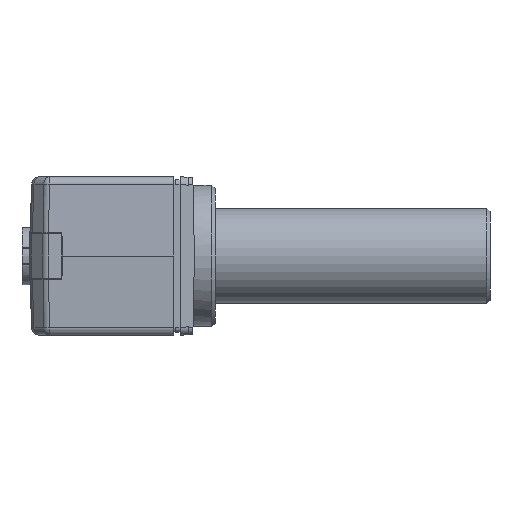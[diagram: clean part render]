
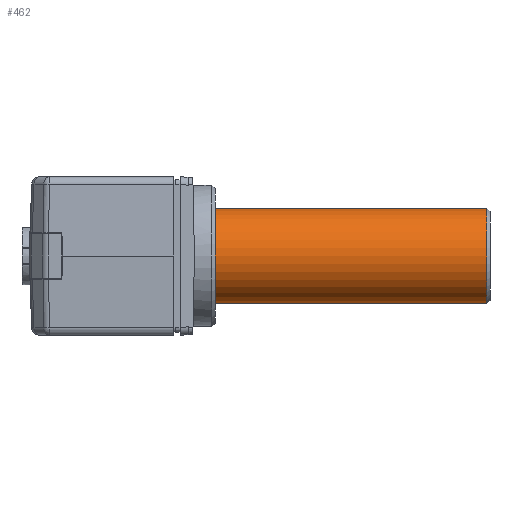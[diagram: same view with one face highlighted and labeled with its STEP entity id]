
A CAD part, left-side view. The second image highlights one B-rep face of the part: STEP entity #462.
In plain terms, the highlighted cylindrical face has radius 3 mm (diameter 6 mm), a full revolution.
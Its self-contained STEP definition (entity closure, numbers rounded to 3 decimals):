
#462=ADVANCED_FACE('',(#1143,#1144),#1145,.T.);
#1143=FACE_OUTER_BOUND('',#2077,.T.);
#1144=FACE_OUTER_BOUND('',#2078,.T.);
#1145=CYLINDRICAL_SURFACE('',#2079,3.);
#2077=EDGE_LOOP('',(#3678));
#2078=EDGE_LOOP('',(#3679));
#2079=AXIS2_PLACEMENT_3D('',#3680,#3681,#3682);
#3678=ORIENTED_EDGE('',*,*,#6030,.F.);
#3679=ORIENTED_EDGE('',*,*,#6114,.T.);
#3680=CARTESIAN_POINT('',(0.15,-20.845,0.0));
#3681=DIRECTION('',(-0.0,1.0,0.0));
#3682=DIRECTION('',(1.0,0.0,0.0));
#6030=EDGE_CURVE('',#7105,#7105,#7106,.T.);
#6114=EDGE_CURVE('',#7256,#7256,#7257,.T.);
#7105=VERTEX_POINT('',#8828);
#7106=CIRCLE('',#8829,3.);
#7256=VERTEX_POINT('',#9060);
#7257=CIRCLE('',#9061,3.);
#8828=CARTESIAN_POINT('',(3.15,-19.7,0.0));
#8829=AXIS2_PLACEMENT_3D('',#11030,#11031,#11032);
#9060=CARTESIAN_POINT('',(-2.85,-2.6,0.0));
#9061=AXIS2_PLACEMENT_3D('',#11157,#11158,#11159);
#11030=CARTESIAN_POINT('',(0.15,-19.7,0.0));
#11031=DIRECTION('',(0.0,-1.0,0.0));
#11032=DIRECTION('',(1.0,0.0,0.0));
#11157=CARTESIAN_POINT('',(0.15,-2.6,0.0));
#11158=DIRECTION('',(0.0,-1.0,0.0));
#11159=DIRECTION('',(-1.0,0.0,0.0));
